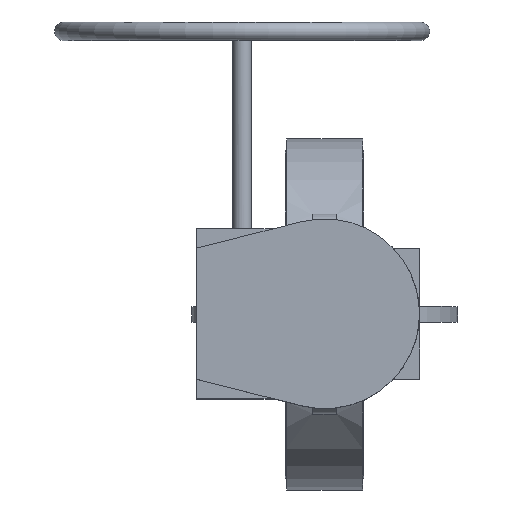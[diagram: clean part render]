
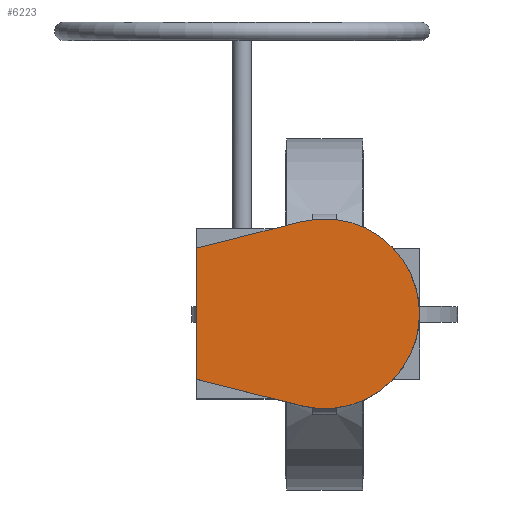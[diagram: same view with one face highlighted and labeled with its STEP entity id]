
A CAD part, top view. The second image highlights one B-rep face of the part: STEP entity #6223.
In plain terms, the highlighted planar face has unit normal (0, 0, 1).
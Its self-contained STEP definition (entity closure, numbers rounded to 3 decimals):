
#6223=ADVANCED_FACE('',(#11723),#11725,.T.);
#11723=FACE_BOUND('',#11724,.T.);
#11724=EDGE_LOOP('',(#15783,#15784,#15785,#15786));
#11725=PLANE('',#11726);
#11726=AXIS2_PLACEMENT_3D('',#11727,#11728,#11729);
#11727=CARTESIAN_POINT('',(0.,0.,314.));
#11728=DIRECTION('',(0.,0.,1.));
#11729=DIRECTION('',(0.,1.,0.));
#15783=ORIENTED_EDGE('',*,*,#17834,.T.);
#15784=ORIENTED_EDGE('',*,*,#17830,.T.);
#15785=ORIENTED_EDGE('',*,*,#17823,.T.);
#15786=ORIENTED_EDGE('',*,*,#17818,.T.);
#17818=EDGE_CURVE('',#21126,#21124,#21127,.T.);
#17823=EDGE_CURVE('',#21134,#21126,#21135,.T.);
#17830=EDGE_CURVE('',#21147,#21134,#21148,.T.);
#17834=EDGE_CURVE('',#21124,#21147,#21153,.T.);
#21124=VERTEX_POINT('',#30635);
#21126=VERTEX_POINT('',#30639);
#21127=LINE('',#30640,#30641);
#21134=VERTEX_POINT('',#30657);
#21135=LINE('',#30658,#30659);
#21147=VERTEX_POINT('',#30684);
#21148=LINE('',#30685,#30686);
#21153=CIRCLE('',#30698,72.5);
#30635=CARTESIAN_POINT('',(-17.879,-70.261,314.));
#30639=CARTESIAN_POINT('',(-97.5,-50.,314.));
#30640=CARTESIAN_POINT('',(-97.5,-50.,314.));
#30641=VECTOR('',#30642,1.);
#30642=DIRECTION('',(0.969,-0.247,0.));
#30657=CARTESIAN_POINT('',(-97.5,50.,314.));
#30658=CARTESIAN_POINT('',(-97.5,50.,314.));
#30659=VECTOR('',#30660,1.);
#30660=DIRECTION('',(0.,-1.,0.));
#30684=CARTESIAN_POINT('',(-17.879,70.261,314.));
#30685=CARTESIAN_POINT('',(-17.879,70.261,314.));
#30686=VECTOR('',#30687,1.);
#30687=DIRECTION('',(-0.969,-0.247,0.));
#30698=AXIS2_PLACEMENT_3D('',#30699,#30700,#30701);
#30699=CARTESIAN_POINT('',(0.,0.,314.));
#30700=DIRECTION('',(0.,0.,1.));
#30701=DIRECTION('',(-0.247,-0.969,0.));
